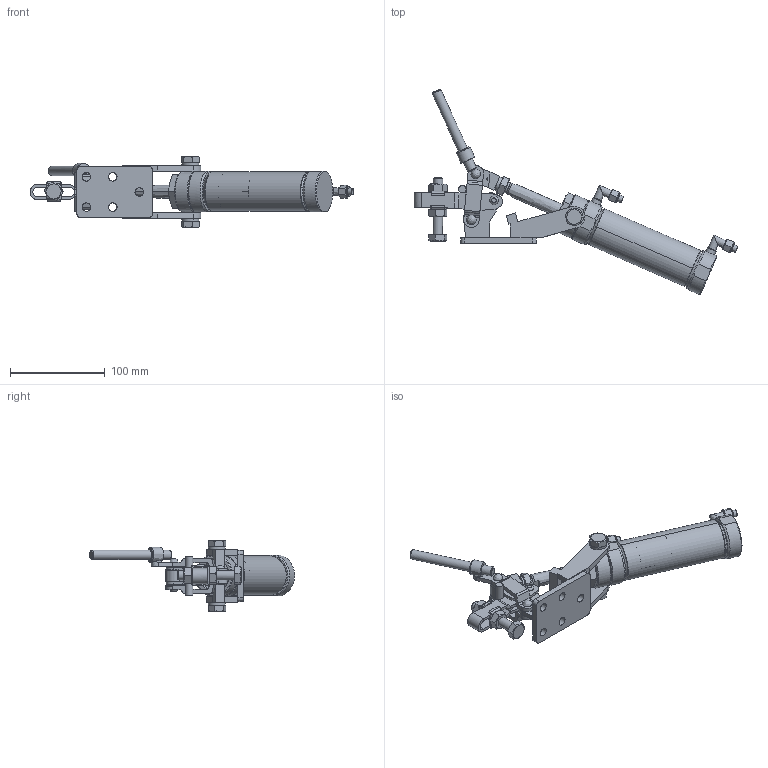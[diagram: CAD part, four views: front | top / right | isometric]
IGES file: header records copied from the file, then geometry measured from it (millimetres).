
Global section: file name: No.102V; native system: Autodesk Inventor 2020; preprocessor: unknown; author: 高橋善宗,,11,0,1; organization: 5H20160316.042552; date: 20240415.151954; units: millimetre
Bounding box: 342.56 x 217.04 x 75.4 mm (x, y, z)
Volume: 271955.3 mm3; surface area: 135892.9 mm2
Topology: 33 solids, 33 shells, 536 faces, 1281 edges, 844 vertices
Faces by surface type: bspline 536
